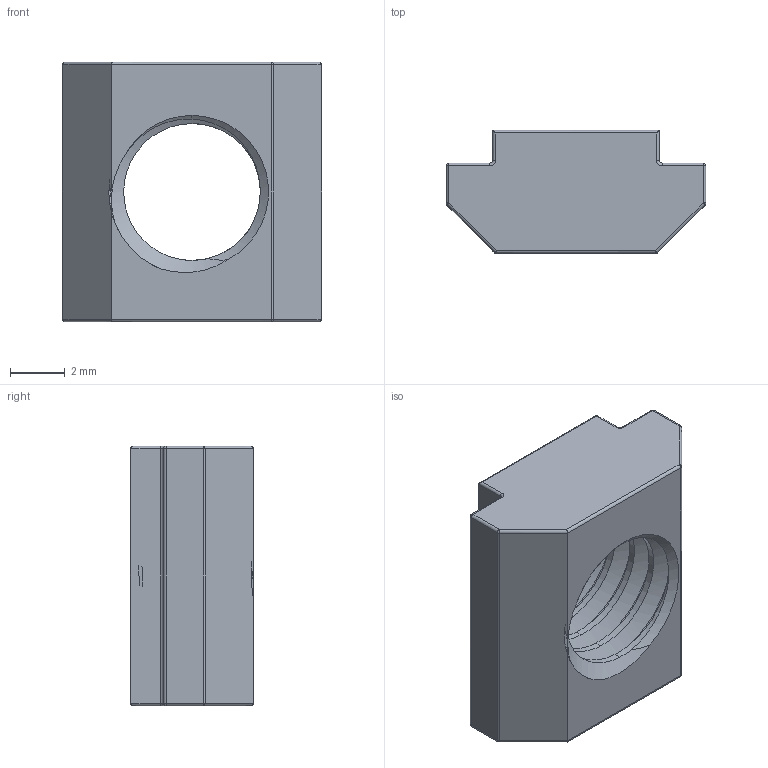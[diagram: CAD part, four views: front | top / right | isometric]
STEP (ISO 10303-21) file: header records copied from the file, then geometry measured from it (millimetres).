
FILE_DESCRIPTION (( 'STEP AP203' ), '1' );
FILE_NAME ('TANLN-AL-20-M6.STEP', '2026-08-25T07:37:15', ( '' ), ( '' ), 'SwSTEP 2.0', 'SolidWorks 2020', '' );
FILE_SCHEMA (( 'CONFIG_CONTROL_DESIGN' ));
Length unit declared in the file: millimetre
Products named in the file (1): TANLN-AL-20-M6
Bounding box: 9.5 x 4.5 x 9.5 mm (x, y, z)
Volume: 229.6 mm3; surface area: 388.7 mm2
Topology: 1 solids, 1 shells, 75 faces, 180 edges, 96 vertices
Faces by surface type: cylinder 39, plane 12, sphere 10, bspline 7, torus 4, cone 3
Entity records: 3275 total; most frequent: CARTESIAN_POINT 1638, ORIENTED_EDGE 340, DIRECTION 319, EDGE_CURVE 170, AXIS2_PLACEMENT_3D 125, VERTEX_POINT 96, EDGE_LOOP 78, ADVANCED_FACE 75
